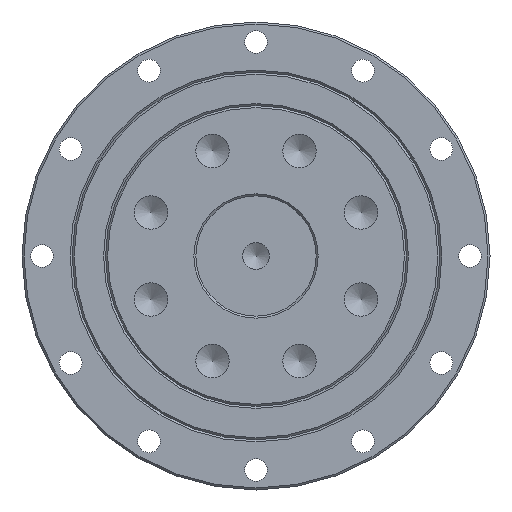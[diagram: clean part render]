
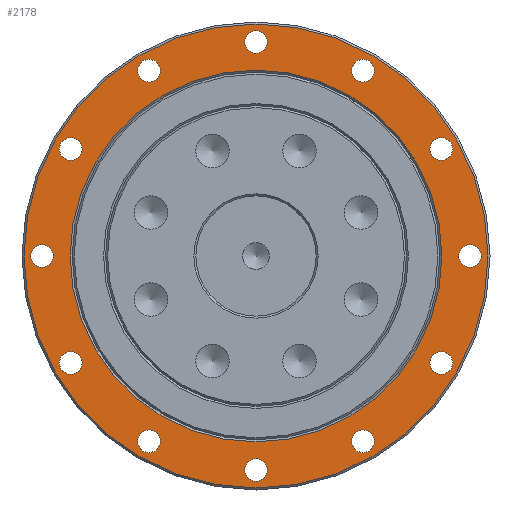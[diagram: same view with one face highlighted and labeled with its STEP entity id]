
A CAD part, left-side view. The second image highlights one B-rep face of the part: STEP entity #2178.
In plain terms, the highlighted planar face has unit normal (-1, 0, 0).
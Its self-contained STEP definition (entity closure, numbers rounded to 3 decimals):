
#138 = ORIENTED_EDGE ( 'NONE', *, *, #4371, .T. ) ;
#181 = EDGE_CURVE ( 'NONE', #10125, #10125, #5626, .T. ) ;
#239 = VERTEX_POINT ( 'NONE', #8991 ) ;
#256 = VERTEX_POINT ( 'NONE', #12703 ) ;
#336 = DIRECTION ( 'NONE',  ( 1., 0., 0. ) ) ;
#368 = VERTEX_POINT ( 'NONE', #1668 ) ;
#369 = DIRECTION ( 'NONE',  ( 1., 0., 0. ) ) ;
#550 = EDGE_CURVE ( 'NONE', #9477, #9477, #2147, .T. ) ;
#573 = CARTESIAN_POINT ( 'NONE',  ( -17.8, 32., 0. ) ) ;
#848 = AXIS2_PLACEMENT_3D ( 'NONE', #8732, #7197, #10138 ) ;
#930 = DIRECTION ( 'NONE',  ( 1., 0., 0. ) ) ;
#1039 = FACE_BOUND ( 'NONE', #4369, .T. ) ;
#1347 = FACE_BOUND ( 'NONE', #10780, .T. ) ;
#1349 = AXIS2_PLACEMENT_3D ( 'NONE', #4776, #11760, #5795 ) ;
#1395 = EDGE_CURVE ( 'NONE', #256, #256, #2123, .T. ) ;
#1440 = CARTESIAN_POINT ( 'NONE',  ( -17.8, 16., -27.713 ) ) ;
#1539 = ORIENTED_EDGE ( 'NONE', *, *, #12897, .T. ) ;
#1580 = DIRECTION ( 'NONE',  ( 0., 0., -1. ) ) ;
#1622 = CARTESIAN_POINT ( 'NONE',  ( -17.8, -1.7, -32. ) ) ;
#1663 = FACE_OUTER_BOUND ( 'NONE', #8427, .T. ) ;
#1668 = CARTESIAN_POINT ( 'NONE',  ( -17.8, -28.563, -14.528 ) ) ;
#1697 = ORIENTED_EDGE ( 'NONE', *, *, #1395, .T. ) ;
#1726 = EDGE_CURVE ( 'NONE', #4963, #4963, #9015, .T. ) ;
#1944 = VERTEX_POINT ( 'NONE', #12280 ) ;
#2123 = CIRCLE ( 'NONE', #8053, 1.7 ) ;
#2147 = CIRCLE ( 'NONE', #2997, 1.7 ) ;
#2178 = ADVANCED_FACE ( 'NONE', ( #1663, #4319, #7620, #12285, #11986, #9320, #6685, #4014, #1347, #11667, #9025, #6362, #3696, #1039 ), #12049, .F. ) ;
#2435 = DIRECTION ( 'NONE',  ( 0., -0.866, -0.5 ) ) ;
#2470 = ORIENTED_EDGE ( 'NONE', *, *, #11820, .T. ) ;
#2618 = CARTESIAN_POINT ( 'NONE',  ( -17.8, -17.472, -26.863 ) ) ;
#2623 = ORIENTED_EDGE ( 'NONE', *, *, #1726, .T. ) ;
#2942 = ORIENTED_EDGE ( 'NONE', *, *, #12334, .T. ) ;
#2997 = AXIS2_PLACEMENT_3D ( 'NONE', #8766, #8722, #8676 ) ;
#3083 = AXIS2_PLACEMENT_3D ( 'NONE', #4614, #11610, #5647 ) ;
#3335 = DIRECTION ( 'NONE',  ( 1., 0., 0. ) ) ;
#3402 = DIRECTION ( 'NONE',  ( 1., 0., 0. ) ) ;
#3418 = ORIENTED_EDGE ( 'NONE', *, *, #8158, .T. ) ;
#3481 = DIRECTION ( 'NONE',  ( 1., 0., 0. ) ) ;
#3651 = VERTEX_POINT ( 'NONE', #2618 ) ;
#3659 = AXIS2_PLACEMENT_3D ( 'NONE', #6928, #930, #7934 ) ;
#3673 = VERTEX_POINT ( 'NONE', #10084 ) ;
#3696 = FACE_BOUND ( 'NONE', #8316, .T. ) ;
#3740 = CARTESIAN_POINT ( 'NONE',  ( -17.8, -14.528, 28.563 ) ) ;
#4014 = FACE_BOUND ( 'NONE', #7177, .T. ) ;
#4044 = ORIENTED_EDGE ( 'NONE', *, *, #550, .T. ) ;
#4299 = CARTESIAN_POINT ( 'NONE',  ( -17.8, 32., -1.7 ) ) ;
#4319 = FACE_BOUND ( 'NONE', #10166, .T. ) ;
#4369 = EDGE_LOOP ( 'NONE', ( #8741 ) ) ;
#4371 = EDGE_CURVE ( 'NONE', #11193, #11193, #6929, .T. ) ;
#4423 = CIRCLE ( 'NONE', #8304, 1.7 ) ;
#4614 = CARTESIAN_POINT ( 'NONE',  ( -17.8, -32., 0. ) ) ;
#4620 = DIRECTION ( 'NONE',  ( 0., 0.5, -0.866 ) ) ;
#4683 = EDGE_CURVE ( 'NONE', #239, #239, #8980, .T. ) ;
#4776 = CARTESIAN_POINT ( 'NONE',  ( -17.8, 0., 0. ) ) ;
#4857 = AXIS2_PLACEMENT_3D ( 'NONE', #12437, #12377, #12349 ) ;
#4963 = VERTEX_POINT ( 'NONE', #3740 ) ;
#5035 = AXIS2_PLACEMENT_3D ( 'NONE', #6333, #336, #7339 ) ;
#5470 = ORIENTED_EDGE ( 'NONE', *, *, #9113, .T. ) ;
#5626 = CIRCLE ( 'NONE', #4857, 1.7 ) ;
#5635 = EDGE_CURVE ( 'NONE', #3673, #3673, #9952, .T. ) ;
#5647 = DIRECTION ( 'NONE',  ( 0., 0., 1. ) ) ;
#5795 = DIRECTION ( 'NONE',  ( 0., 0., -1. ) ) ;
#5828 = AXIS2_PLACEMENT_3D ( 'NONE', #11521, #12436, #11502 ) ;
#6083 = CIRCLE ( 'NONE', #5035, 1.7 ) ;
#6333 = CARTESIAN_POINT ( 'NONE',  ( -17.8, -27.713, -16. ) ) ;
#6362 = FACE_BOUND ( 'NONE', #9870, .T. ) ;
#6363 = CARTESIAN_POINT ( 'NONE',  ( -17.8, -27.713, 16. ) ) ;
#6685 = FACE_BOUND ( 'NONE', #11707, .T. ) ;
#6820 = AXIS2_PLACEMENT_3D ( 'NONE', #9327, #3335, #10333 ) ;
#6878 = ORIENTED_EDGE ( 'NONE', *, *, #11857, .T. ) ;
#6928 = CARTESIAN_POINT ( 'NONE',  ( -17.8, 0., 32. ) ) ;
#6929 = CIRCLE ( 'NONE', #11347, 1.7 ) ;
#7025 = ORIENTED_EDGE ( 'NONE', *, *, #181, .T. ) ;
#7177 = EDGE_LOOP ( 'NONE', ( #1539 ) ) ;
#7197 = DIRECTION ( 'NONE',  ( 1., 0., 0. ) ) ;
#7274 = AXIS2_PLACEMENT_3D ( 'NONE', #6363, #369, #7368 ) ;
#7334 = ORIENTED_EDGE ( 'NONE', *, *, #4683, .T. ) ;
#7339 = DIRECTION ( 'NONE',  ( 0., -0.5, 0.866 ) ) ;
#7368 = DIRECTION ( 'NONE',  ( 0., 0.5, 0.866 ) ) ;
#7572 = DIRECTION ( 'NONE',  ( 1., 0., 0. ) ) ;
#7620 = FACE_BOUND ( 'NONE', #9518, .T. ) ;
#7647 = CARTESIAN_POINT ( 'NONE',  ( -17.8, 26.863, -17.472 ) ) ;
#7659 = EDGE_LOOP ( 'NONE', ( #6878 ) ) ;
#7790 = AXIS2_PLACEMENT_3D ( 'NONE', #9391, #3402, #10396 ) ;
#7934 = DIRECTION ( 'NONE',  ( 0., 1., 0. ) ) ;
#8031 = EDGE_CURVE ( 'NONE', #9934, #9934, #4423, .T. ) ;
#8053 = AXIS2_PLACEMENT_3D ( 'NONE', #12674, #9144, #4620 ) ;
#8158 = EDGE_CURVE ( 'NONE', #1944, #1944, #12868, .T. ) ;
#8268 = ORIENTED_EDGE ( 'NONE', *, *, #5635, .T. ) ;
#8304 = AXIS2_PLACEMENT_3D ( 'NONE', #573, #7572, #1580 ) ;
#8316 = EDGE_LOOP ( 'NONE', ( #4044 ) ) ;
#8427 = EDGE_LOOP ( 'NONE', ( #3418 ) ) ;
#8433 = DIRECTION ( 'NONE',  ( 1., 0., 0. ) ) ;
#8676 = DIRECTION ( 'NONE',  ( 0., -0.5, -0.866 ) ) ;
#8716 = CIRCLE ( 'NONE', #7274, 1.7 ) ;
#8722 = DIRECTION ( 'NONE',  ( 1., 0., 0. ) ) ;
#8732 = CARTESIAN_POINT ( 'NONE',  ( -17.8, -16., 27.713 ) ) ;
#8741 = ORIENTED_EDGE ( 'NONE', *, *, #8031, .T. ) ;
#8766 = CARTESIAN_POINT ( 'NONE',  ( -17.8, 27.713, -16. ) ) ;
#8912 = EDGE_LOOP ( 'NONE', ( #2470 ) ) ;
#8980 = CIRCLE ( 'NONE', #3659, 1.7 ) ;
#8981 = VERTEX_POINT ( 'NONE', #1622 ) ;
#8991 = CARTESIAN_POINT ( 'NONE',  ( -17.8, 1.7, 32. ) ) ;
#9015 = CIRCLE ( 'NONE', #848, 1.7 ) ;
#9025 = FACE_BOUND ( 'NONE', #11702, .T. ) ;
#9113 = EDGE_CURVE ( 'NONE', #10707, #10707, #11583, .T. ) ;
#9144 = DIRECTION ( 'NONE',  ( 1., 0., 0. ) ) ;
#9320 = FACE_BOUND ( 'NONE', #12314, .T. ) ;
#9327 = CARTESIAN_POINT ( 'NONE',  ( -17.8, 0., 0. ) ) ;
#9391 = CARTESIAN_POINT ( 'NONE',  ( -17.8, 0., -32. ) ) ;
#9473 = CARTESIAN_POINT ( 'NONE',  ( -17.8, -16., -27.713 ) ) ;
#9477 = VERTEX_POINT ( 'NONE', #7647 ) ;
#9518 = EDGE_LOOP ( 'NONE', ( #138 ) ) ;
#9682 = CIRCLE ( 'NONE', #11795, 1.7 ) ;
#9722 = CARTESIAN_POINT ( 'NONE',  ( -17.8, -26.863, 17.472 ) ) ;
#9761 = VERTEX_POINT ( 'NONE', #9722 ) ;
#9870 = EDGE_LOOP ( 'NONE', ( #1697 ) ) ;
#9934 = VERTEX_POINT ( 'NONE', #4299 ) ;
#9952 = CIRCLE ( 'NONE', #3083, 1.7 ) ;
#10001 = CIRCLE ( 'NONE', #7790, 1.7 ) ;
#10084 = CARTESIAN_POINT ( 'NONE',  ( -17.8, -32., 1.7 ) ) ;
#10125 = VERTEX_POINT ( 'NONE', #10561 ) ;
#10138 = DIRECTION ( 'NONE',  ( 0., 0.866, 0.5 ) ) ;
#10154 = EDGE_LOOP ( 'NONE', ( #7334 ) ) ;
#10166 = EDGE_LOOP ( 'NONE', ( #5470 ) ) ;
#10333 = DIRECTION ( 'NONE',  ( 0., 0., -1. ) ) ;
#10396 = DIRECTION ( 'NONE',  ( 0., -1., 0. ) ) ;
#10487 = DIRECTION ( 'NONE',  ( 0., -0.866, 0.5 ) ) ;
#10561 = CARTESIAN_POINT ( 'NONE',  ( -17.8, 17.472, 26.863 ) ) ;
#10707 = VERTEX_POINT ( 'NONE', #12365 ) ;
#10780 = EDGE_LOOP ( 'NONE', ( #2623 ) ) ;
#10951 = CARTESIAN_POINT ( 'NONE',  ( -17.8, 14.528, -28.563 ) ) ;
#11193 = VERTEX_POINT ( 'NONE', #10951 ) ;
#11347 = AXIS2_PLACEMENT_3D ( 'NONE', #1440, #8433, #2435 ) ;
#11502 = DIRECTION ( 'NONE',  ( 0., 0., -1. ) ) ;
#11521 = CARTESIAN_POINT ( 'NONE',  ( -17.8, 0., 0. ) ) ;
#11583 = CIRCLE ( 'NONE', #6820, 27.8 ) ;
#11610 = DIRECTION ( 'NONE',  ( 1., 0., 0. ) ) ;
#11667 = FACE_BOUND ( 'NONE', #10154, .T. ) ;
#11702 = EDGE_LOOP ( 'NONE', ( #7025 ) ) ;
#11707 = EDGE_LOOP ( 'NONE', ( #8268 ) ) ;
#11760 = DIRECTION ( 'NONE',  ( -1., 0., 0. ) ) ;
#11795 = AXIS2_PLACEMENT_3D ( 'NONE', #9473, #3481, #10487 ) ;
#11820 = EDGE_CURVE ( 'NONE', #8981, #8981, #10001, .T. ) ;
#11857 = EDGE_CURVE ( 'NONE', #3651, #3651, #9682, .T. ) ;
#11986 = FACE_BOUND ( 'NONE', #7659, .T. ) ;
#12049 = PLANE ( 'NONE',  #5828 ) ;
#12280 = CARTESIAN_POINT ( 'NONE',  ( -17.8, 0., -34.7 ) ) ;
#12285 = FACE_BOUND ( 'NONE', #8912, .T. ) ;
#12314 = EDGE_LOOP ( 'NONE', ( #2942 ) ) ;
#12334 = EDGE_CURVE ( 'NONE', #368, #368, #6083, .T. ) ;
#12349 = DIRECTION ( 'NONE',  ( 0., 0.866, -0.5 ) ) ;
#12365 = CARTESIAN_POINT ( 'NONE',  ( -17.8, 0., -27.8 ) ) ;
#12377 = DIRECTION ( 'NONE',  ( 1., 0., 0. ) ) ;
#12436 = DIRECTION ( 'NONE',  ( 1., 0., 0. ) ) ;
#12437 = CARTESIAN_POINT ( 'NONE',  ( -17.8, 16., 27.713 ) ) ;
#12674 = CARTESIAN_POINT ( 'NONE',  ( -17.8, 27.713, 16. ) ) ;
#12703 = CARTESIAN_POINT ( 'NONE',  ( -17.8, 28.563, 14.528 ) ) ;
#12868 = CIRCLE ( 'NONE', #1349, 34.7 ) ;
#12897 = EDGE_CURVE ( 'NONE', #9761, #9761, #8716, .T. ) ;
